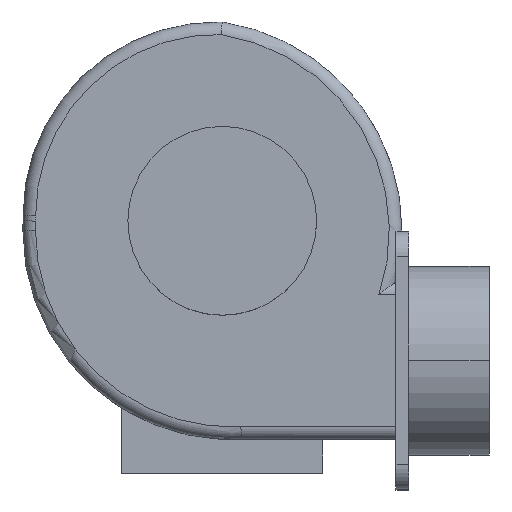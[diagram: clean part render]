
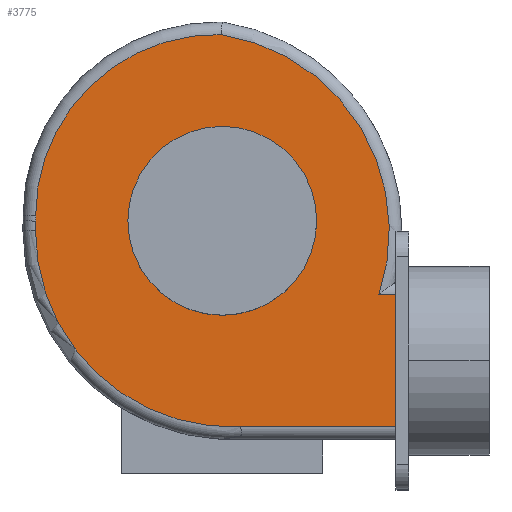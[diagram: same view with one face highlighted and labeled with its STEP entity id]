
A CAD part, top view. The second image highlights one B-rep face of the part: STEP entity #3775.
In plain terms, the highlighted planar face has unit normal (0, 0, 1).
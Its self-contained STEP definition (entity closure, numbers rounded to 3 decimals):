
#4 = AXIS2_PLACEMENT_3D ( 'NONE', #278, #2433, #600 ) ;
#13 = DIRECTION ( 'NONE',  ( 0., 0., 1. ) ) ;
#66 = AXIS2_PLACEMENT_3D ( 'NONE', #2912, #1064, #3203 ) ;
#91 = ORIENTED_EDGE ( 'NONE', *, *, #457, .F. ) ;
#199 = EDGE_CURVE ( 'NONE', #2208, #3974, #3668, .T. ) ;
#227 = EDGE_CURVE ( 'NONE', #3806, #3428, #1517, .T. ) ;
#251 = CIRCLE ( 'NONE', #3743, 143.99 ) ;
#278 = CARTESIAN_POINT ( 'NONE',  ( 0., 0., 62.5 ) ) ;
#280 = ORIENTED_EDGE ( 'NONE', *, *, #2339, .F. ) ;
#321 = CARTESIAN_POINT ( 'NONE',  ( -148.263, 4.087, 62.5 ) ) ;
#325 = DIRECTION ( 'NONE',  ( 0., 0., -1. ) ) ;
#352 = CARTESIAN_POINT ( 'NONE',  ( -75., 0., 62.5 ) ) ;
#407 = EDGE_CURVE ( 'NONE', #1900, #1393, #3914, .T. ) ;
#410 = CIRCLE ( 'NONE', #746, 75. ) ;
#429 = DIRECTION ( 'NONE',  ( 0., 0., 1. ) ) ;
#443 = ORIENTED_EDGE ( 'NONE', *, *, #407, .F. ) ;
#457 = EDGE_CURVE ( 'NONE', #2342, #2790, #2099, .T. ) ;
#529 = VERTEX_POINT ( 'NONE', #3344 ) ;
#550 = CARTESIAN_POINT ( 'NONE',  ( 138., -163.5, 62.5 ) ) ;
#552 = CARTESIAN_POINT ( 'NONE',  ( 138., -58.5, 62.5 ) ) ;
#600 = DIRECTION ( 'NONE',  ( -1., 0., 0. ) ) ;
#746 = AXIS2_PLACEMENT_3D ( 'NONE', #2905, #1060, #3198 ) ;
#798 = EDGE_CURVE ( 'NONE', #2790, #2342, #410, .T. ) ;
#816 = VECTOR ( 'NONE', #1166, 1000. ) ;
#879 = LINE ( 'NONE', #2806, #966 ) ;
#957 = CARTESIAN_POINT ( 'NONE',  ( -148.39, -7.75, 62.5 ) ) ;
#966 = VECTOR ( 'NONE', #1272, 1000. ) ;
#1032 = ORIENTED_EDGE ( 'NONE', *, *, #1282, .T. ) ;
#1060 = DIRECTION ( 'NONE',  ( 0., 0., 1. ) ) ;
#1064 = DIRECTION ( 'NONE',  ( 0., 0., 1. ) ) ;
#1074 = CARTESIAN_POINT ( 'NONE',  ( -0.884, 148.037, 62.5 ) ) ;
#1166 = DIRECTION ( 'NONE',  ( -1., 0., 0. ) ) ;
#1241 = FACE_OUTER_BOUND ( 'NONE', #1843, .T. ) ;
#1242 = PLANE ( 'NONE',  #3279 ) ;
#1272 = DIRECTION ( 'NONE',  ( -1., 0., 0. ) ) ;
#1282 = EDGE_CURVE ( 'NONE', #3926, #2208, #251, .T. ) ;
#1325 = ORIENTED_EDGE ( 'NONE', *, *, #227, .T. ) ;
#1393 = VERTEX_POINT ( 'NONE', #1625 ) ;
#1517 = CIRCLE ( 'NONE', #66, 155.921 ) ;
#1541 = CIRCLE ( 'NONE', #3564, 157.619 ) ;
#1577 = DIRECTION ( 'NONE',  ( 0., 0., 1. ) ) ;
#1588 = DIRECTION ( 'NONE',  ( 0., 0., 1. ) ) ;
#1617 = LINE ( 'NONE', #552, #816 ) ;
#1625 = CARTESIAN_POINT ( 'NONE',  ( 138., -163.5, 62.5 ) ) ;
#1651 = VECTOR ( 'NONE', #2699, 1000. ) ;
#1837 = CARTESIAN_POINT ( 'NONE',  ( 7.531, -7.75, 62.5 ) ) ;
#1843 = EDGE_LOOP ( 'NONE', ( #2368, #1325, #280, #443, #3513, #1966, #1032, #3188 ) ) ;
#1900 = VERTEX_POINT ( 'NONE', #2016 ) ;
#1966 = ORIENTED_EDGE ( 'NONE', *, *, #2602, .T. ) ;
#2016 = CARTESIAN_POINT ( 'NONE',  ( 138., -58.5, 62.5 ) ) ;
#2099 = CIRCLE ( 'NONE', #4, 75. ) ;
#2160 = DIRECTION ( 'NONE',  ( -1., 0., 0. ) ) ;
#2170 = CARTESIAN_POINT ( 'NONE',  ( -8.686, -7.746, 62.5 ) ) ;
#2208 = VERTEX_POINT ( 'NONE', #321 ) ;
#2268 = CARTESIAN_POINT ( 'NONE',  ( -4.273, 4.087, 62.5 ) ) ;
#2339 = EDGE_CURVE ( 'NONE', #1393, #3428, #879, .T. ) ;
#2342 = VERTEX_POINT ( 'NONE', #352 ) ;
#2368 = ORIENTED_EDGE ( 'NONE', *, *, #3052, .T. ) ;
#2433 = DIRECTION ( 'NONE',  ( 0., 0., 1. ) ) ;
#2484 = DIRECTION ( 'NONE',  ( -1., 0., 0. ) ) ;
#2581 = DIRECTION ( 'NONE',  ( -1., 0., 0. ) ) ;
#2602 = EDGE_CURVE ( 'NONE', #529, #3926, #1541, .T. ) ;
#2699 = DIRECTION ( 'NONE',  ( 0., -1., 0. ) ) ;
#2742 = CIRCLE ( 'NONE', #3303, 155.921 ) ;
#2790 = VERTEX_POINT ( 'NONE', #3531 ) ;
#2806 = CARTESIAN_POINT ( 'NONE',  ( 138., -163.5, 62.5 ) ) ;
#2875 = FACE_BOUND ( 'NONE', #3771, .T. ) ;
#2905 = CARTESIAN_POINT ( 'NONE',  ( 0., 0., 62.5 ) ) ;
#2912 = CARTESIAN_POINT ( 'NONE',  ( 7.531, -7.75, 62.5 ) ) ;
#2926 = ORIENTED_EDGE ( 'NONE', *, *, #798, .F. ) ;
#3052 = EDGE_CURVE ( 'NONE', #3974, #3806, #2742, .T. ) ;
#3114 = CARTESIAN_POINT ( 'NONE',  ( 14.833, -163.5, 62.5 ) ) ;
#3188 = ORIENTED_EDGE ( 'NONE', *, *, #199, .T. ) ;
#3198 = DIRECTION ( 'NONE',  ( -1., 0., 0. ) ) ;
#3203 = DIRECTION ( 'NONE',  ( -1., 0., 0. ) ) ;
#3279 = AXIS2_PLACEMENT_3D ( 'NONE', #2170, #325, #2484 ) ;
#3303 = AXIS2_PLACEMENT_3D ( 'NONE', #1837, #13, #2160 ) ;
#3344 = CARTESIAN_POINT ( 'NONE',  ( 124.319, -58.5, 62.5 ) ) ;
#3401 = CARTESIAN_POINT ( 'NONE',  ( -4.273, 4.087, 62.5 ) ) ;
#3412 = CARTESIAN_POINT ( 'NONE',  ( -24.903, -7.741, 62.5 ) ) ;
#3428 = VERTEX_POINT ( 'NONE', #3114 ) ;
#3513 = ORIENTED_EDGE ( 'NONE', *, *, #3685, .T. ) ;
#3531 = CARTESIAN_POINT ( 'NONE',  ( 75., 0., 62.5 ) ) ;
#3564 = AXIS2_PLACEMENT_3D ( 'NONE', #3412, #1588, #3730 ) ;
#3668 = CIRCLE ( 'NONE', #3843, 143.99 ) ;
#3685 = EDGE_CURVE ( 'NONE', #1900, #529, #1617, .T. ) ;
#3710 = DIRECTION ( 'NONE',  ( -1., 0., 0. ) ) ;
#3730 = DIRECTION ( 'NONE',  ( -1., 0., 0. ) ) ;
#3743 = AXIS2_PLACEMENT_3D ( 'NONE', #3401, #1577, #3710 ) ;
#3771 = EDGE_LOOP ( 'NONE', ( #91, #2926 ) ) ;
#3775 = ADVANCED_FACE ( 'NONE', ( #2875, #1241 ), #1242, .F. ) ;
#3806 = VERTEX_POINT ( 'NONE', #957 ) ;
#3843 = AXIS2_PLACEMENT_3D ( 'NONE', #2268, #429, #2581 ) ;
#3862 = CARTESIAN_POINT ( 'NONE',  ( -148.202, -0.101, 62.5 ) ) ;
#3914 = LINE ( 'NONE', #550, #1651 ) ;
#3926 = VERTEX_POINT ( 'NONE', #1074 ) ;
#3974 = VERTEX_POINT ( 'NONE', #3862 ) ;
